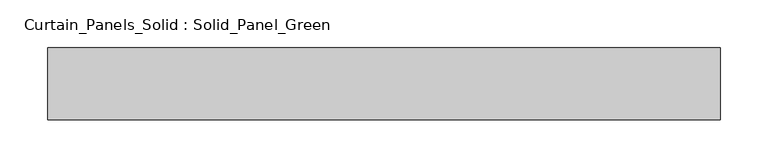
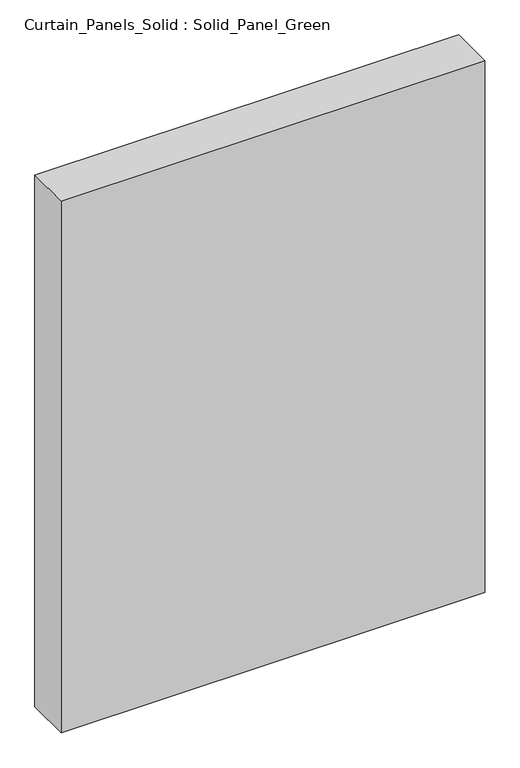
"""IFC4 building model written with IfcOpenShell, lengths in millimetres: plate geometry, Curtain_Panels_Solid : Solid_Panel_Green."""

from ifc_helpers import new_model, si_unit, origin, origin_with_axes, place, context, project, spatial, polyline, outline, extrude, source, transform, mapped, element, save


def curtain_panels_solid_solid_panel_green_55c4b870(model_context):
    return source(origin(), model_context, "Body", "SweptSolid", [
        extrude(outline(polyline([(351.2499999, -25.0), (-351.2499999, -25.0), (-351.2499999, 50.0), (351.2499999, 50.0), (351.2499999, -25.0)])), origin_with_axes(), (0.0, 0.0, 1.0), 932.5),
    ])


if __name__ == "__main__":
    model = new_model("IFC4")
    model_context = context("Model", 3, world=origin())
    ifc_project = project(units=[si_unit("LENGTHUNIT", "METRE", prefix="MILLI")], contexts=[model_context])
    site = spatial("IfcSite", under=ifc_project)
    building = spatial("IfcBuilding", under=site)
    placement = place(None, origin())
    curtain_panels_solid_solid_panel_green_shape = curtain_panels_solid_solid_panel_green_55c4b870(model_context)
    element("IfcPlate", 1, ObjectType="Curtain_Panels_Solid : Solid_Panel_Green", at=placement, inside=building, context=model_context, shape_type="MappedRepresentation", body=[
        mapped(curtain_panels_solid_solid_panel_green_shape, transform((0.0, 0.0, 0.0), x_axis=(1.0, 0.0, 0.0), y_axis=(0.0, 1.0, 0.0), z_axis=(0.0, 0.0, 1.0))),
    ])
    save(model, "model.ifc")
